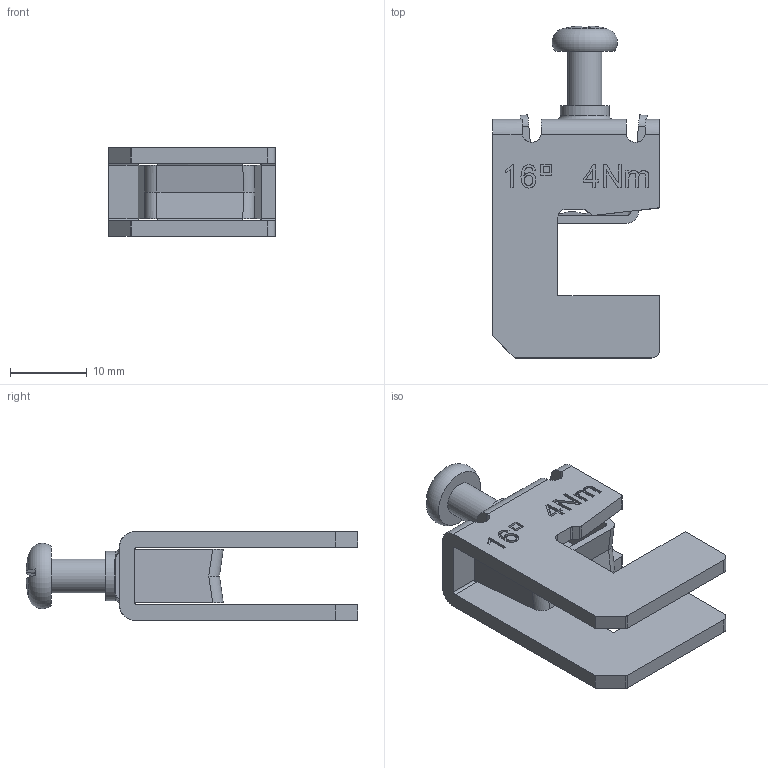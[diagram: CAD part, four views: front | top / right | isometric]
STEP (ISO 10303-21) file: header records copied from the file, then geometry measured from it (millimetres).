
FILE_DESCRIPTION (( 'STEP AP203' ), '1' );
FILE_NAME ('54289.STEP', '2021-08-13T05:04:42', ( '' ), ( '' ), 'SwSTEP 2.0', 'SolidWorks 2017', '' );
FILE_SCHEMA (( 'CONFIG_CONTROL_DESIGN' ));
Length unit declared in the file: millimetre
Products named in the file (2): 54289
Bounding box: 21.7 x 43.14 x 11.5 mm (x, y, z)
Volume: 2910 mm3; surface area: 3952.3 mm2
Topology: 3 solids, 3 shells, 215 faces, 597 edges, 397 vertices
Faces by surface type: plane 141, cylinder 45, bspline 25, torus 2, sphere 2
Full cylindrical faces by diameter (mm): 4.4 x2, 6.4 x1
Entity records: 8336 total; most frequent: CARTESIAN_POINT 2897, ORIENTED_EDGE 1180, DIRECTION 958, EDGE_CURVE 590, VECTOR 414, LINE 414, VERTEX_POINT 395, AXIS2_PLACEMENT_3D 272
